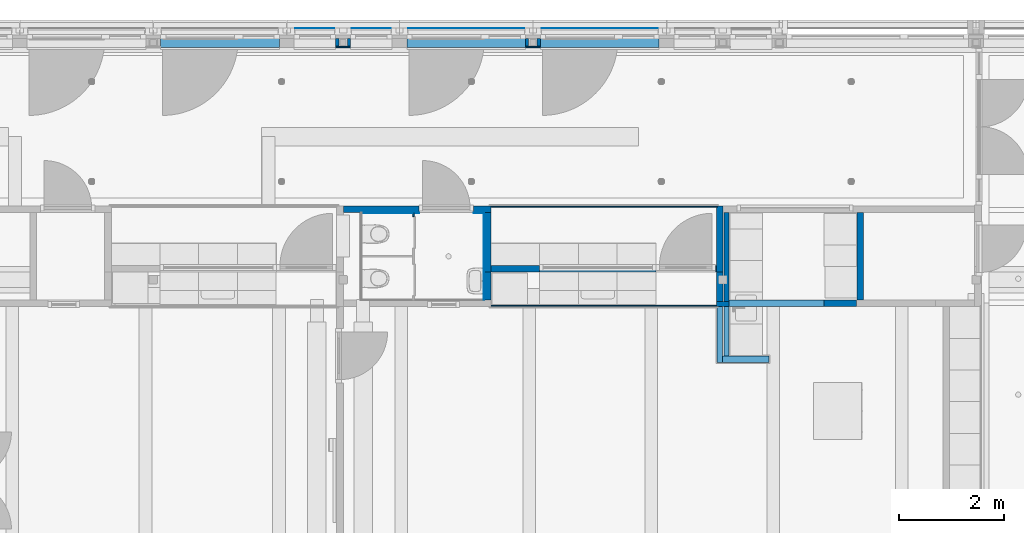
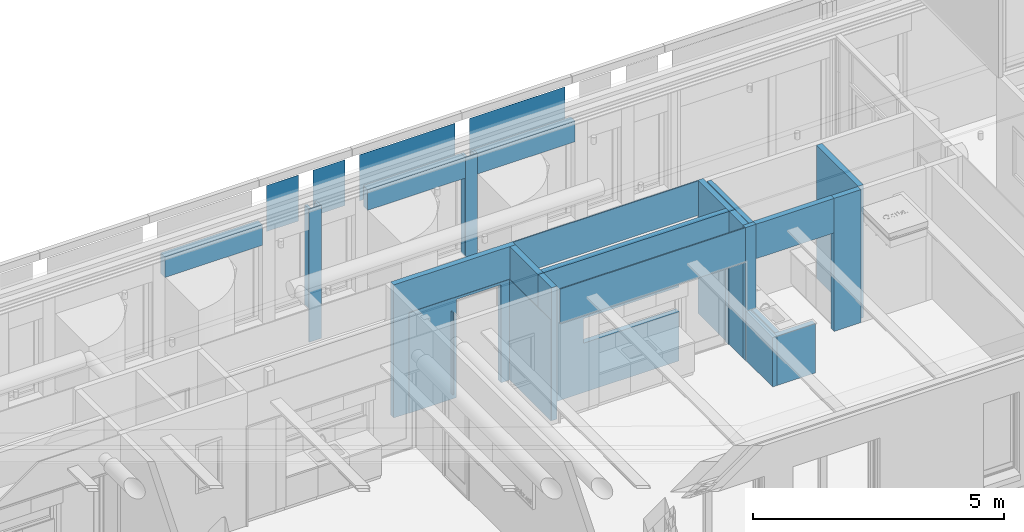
# One storey, part 54 of 128: 32 walls, 4 openings.
"""IFC2X3 building model written with IfcOpenShell, lengths in millimetres."""

from ifc_helpers import new_model, entity, si_unit, converted_unit, derived_unit, direction, frame, frame_2d, origin, place, context, subcontext, project, spatial, rectangle, extrude, material, layer, layer_set, layer_usage, type_object, element, save


model = new_model("IFC2X3")

# Units and contexts
model_context = context("Model", 3, precision=0.01, world=origin(), true_north=direction((6.123031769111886e-17, 1.0)))
body_context = subcontext(model_context, "Body", "Model", "MODEL_VIEW")
ifc_project = project(units=[si_unit("LENGTHUNIT", "METRE", prefix="MILLI"), si_unit("AREAUNIT", "SQUARE_METRE"), si_unit("VOLUMEUNIT", "CUBIC_METRE"), converted_unit("PLANEANGLEUNIT", "DEGREE", entity("IfcRatioMeasure", 0.017453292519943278), si_unit("PLANEANGLEUNIT", "RADIAN"), dimensions=[0, 0, 0, 0, 0, 0, 0]), si_unit("MASSUNIT", "GRAM", prefix="KILO"), derived_unit("MASSDENSITYUNIT", [(si_unit("MASSUNIT", "GRAM", prefix="KILO"), 1), (si_unit("LENGTHUNIT", "METRE"), -3)]), derived_unit("IONCONCENTRATIONUNIT", [(si_unit("MASSUNIT", "GRAM", prefix="KILO"), 1), (si_unit("LENGTHUNIT", "METRE"), -3)]), derived_unit("MOMENTOFINERTIAUNIT", [(si_unit("LENGTHUNIT", "METRE"), 4)]), si_unit("TIMEUNIT", "SECOND"), si_unit("FREQUENCYUNIT", "HERTZ"), si_unit("THERMODYNAMICTEMPERATUREUNIT", "DEGREE_CELSIUS"), derived_unit("THERMALTRANSMITTANCEUNIT", [(si_unit("MASSUNIT", "GRAM", prefix="KILO"), 1), (si_unit("THERMODYNAMICTEMPERATUREUNIT", "KELVIN"), -1), (si_unit("TIMEUNIT", "SECOND"), -3)]), derived_unit("THERMALCONDUCTANCEUNIT", [(si_unit("MASSUNIT", "GRAM", prefix="KILO"), 1), (si_unit("THERMODYNAMICTEMPERATUREUNIT", "KELVIN"), -1), (si_unit("TIMEUNIT", "SECOND"), -3), (si_unit("LENGTHUNIT", "METRE"), 1)]), derived_unit("VOLUMETRICFLOWRATEUNIT", [(si_unit("LENGTHUNIT", "METRE"), 3), (si_unit("TIMEUNIT", "SECOND"), -1)]), derived_unit("MASSFLOWRATEUNIT", [(si_unit("MASSUNIT", "GRAM", prefix="KILO"), 1), (si_unit("TIMEUNIT", "SECOND"), -1)]), derived_unit("ROTATIONALFREQUENCYUNIT", [(si_unit("TIMEUNIT", "SECOND"), -1)]), si_unit("ELECTRICCURRENTUNIT", "AMPERE"), si_unit("ELECTRICVOLTAGEUNIT", "VOLT"), si_unit("POWERUNIT", "WATT"), si_unit("FORCEUNIT", "NEWTON", prefix="KILO"), si_unit("ILLUMINANCEUNIT", "LUX"), si_unit("LUMINOUSFLUXUNIT", "LUMEN"), si_unit("LUMINOUSINTENSITYUNIT", "CANDELA"), derived_unit("USERDEFINED", [(si_unit("MASSUNIT", "GRAM", prefix="KILO"), -1), (si_unit("LENGTHUNIT", "METRE"), -2), (si_unit("TIMEUNIT", "SECOND"), 3), (si_unit("LUMINOUSFLUXUNIT", "LUMEN"), 1)]), derived_unit("USERDEFINED", [(si_unit("MASSUNIT", "GRAM", prefix="KILO"), 1), (si_unit("TIMEUNIT", "SECOND"), -3), (si_unit("LENGTHUNIT", "METRE"), 3), (si_unit("ELECTRICCURRENTUNIT", "AMPERE"), -2)]), derived_unit("SOUNDPOWERUNIT", [(si_unit("MASSUNIT", "GRAM", prefix="KILO"), 1), (si_unit("TIMEUNIT", "SECOND"), -3), (si_unit("LENGTHUNIT", "METRE"), 2)]), derived_unit("SOUNDPRESSUREUNIT", [(si_unit("MASSUNIT", "GRAM", prefix="KILO"), 1), (si_unit("LENGTHUNIT", "METRE"), -1), (si_unit("TIMEUNIT", "SECOND"), -2)]), derived_unit("LINEARVELOCITYUNIT", [(si_unit("LENGTHUNIT", "METRE"), 1), (si_unit("TIMEUNIT", "SECOND"), -1)]), si_unit("PRESSUREUNIT", "PASCAL"), derived_unit("USERDEFINED", [(si_unit("MASSUNIT", "GRAM", prefix="KILO"), 1), (si_unit("LENGTHUNIT", "METRE"), -2), (si_unit("TIMEUNIT", "SECOND"), -2)]), derived_unit("LINEARFORCEUNIT", [(si_unit("MASSUNIT", "GRAM", prefix="KILO"), 1), (si_unit("TIMEUNIT", "SECOND"), -2)]), derived_unit("PLANARFORCEUNIT", [(si_unit("MASSUNIT", "GRAM", prefix="KILO"), 1), (si_unit("LENGTHUNIT", "METRE"), -1), (si_unit("TIMEUNIT", "SECOND"), -2)]), derived_unit("SPECIFICHEATCAPACITYUNIT", [(si_unit("THERMODYNAMICTEMPERATUREUNIT", "KELVIN"), -1), (si_unit("LENGTHUNIT", "METRE"), 2), (si_unit("TIMEUNIT", "SECOND"), -2)]), derived_unit("HEATINGVALUEUNIT", [(si_unit("LENGTHUNIT", "METRE"), 2), (si_unit("TIMEUNIT", "SECOND"), -2)]), derived_unit("VAPORPERMEABILITYUNIT", [(si_unit("LENGTHUNIT", "METRE"), -1), (si_unit("TIMEUNIT", "SECOND"), 1)]), derived_unit("DYNAMICVISCOSITYUNIT", [(si_unit("MASSUNIT", "GRAM", prefix="KILO"), 1), (si_unit("TIMEUNIT", "SECOND"), -1), (si_unit("LENGTHUNIT", "METRE"), -1)]), derived_unit("THERMALEXPANSIONCOEFFICIENTUNIT", [(si_unit("THERMODYNAMICTEMPERATUREUNIT", "KELVIN"), -1)]), derived_unit("MODULUSOFELASTICITYUNIT", [(si_unit("MASSUNIT", "GRAM", prefix="KILO"), 1), (si_unit("LENGTHUNIT", "METRE"), -1), (si_unit("TIMEUNIT", "SECOND"), -2)]), derived_unit("ISOTHERMALMOISTURECAPACITYUNIT", [(si_unit("LENGTHUNIT", "METRE"), 3), (si_unit("MASSUNIT", "GRAM", prefix="KILO"), -1)]), derived_unit("MOISTUREDIFFUSIVITYUNIT", [(si_unit("TIMEUNIT", "SECOND"), -1), (si_unit("LENGTHUNIT", "METRE"), 2)])], contexts=[model_context])

# Site, building, storey
site_placement = place(None, frame((0.0, 300.0, 0.0)))
site = spatial("IfcSite", under=ifc_project, at=site_placement, Name="<Kadastrale nummers>", CompositionType="ELEMENT")
building_placement = place(site_placement, origin())
building = spatial("IfcBuilding", under=site, at=building_placement, CompositionType="ELEMENT")
storey_placement = place(building_placement, frame((0.0, 0.0, 3560.0000331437)))
storey = spatial("IfcBuildingStorey", under=building, at=storey_placement, Name="01 eerste verdieping", CompositionType="ELEMENT", Elevation=3560.0000331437)

# Walls
ifc_material_1 = material(Name="ISR_Gips")
ifc_layer_1 = layer(ifc_material_1, 1.0)
ifc_material_2 = material(Name="ISR_Binnenwand")
ifc_layer_2 = layer(ifc_material_2, 123.0)
ifc_layer_3 = layer(ifc_material_1, 1.0)
ifc_layer_set_1 = layer_set([ifc_layer_1, ifc_layer_2, ifc_layer_3], Name="Basic Wall:22_DAT_binnenwand_125")
ifc_layer_usage_1 = layer_usage(ifc_layer_set_1, "AXIS2", "NEGATIVE", 62.50000000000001)
wall_type_1 = type_object("IfcWallType", Name="Basic Wall:22_DAT_binnenwand_125", PredefinedType="STANDARD", material=ifc_layer_set_1)
wall_1_placement = place(storey_placement, frame((33717.50000000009, 44852.50000000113, 90.00000187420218)))
element("IfcWallStandardCase", 1, at=wall_1_placement, inside=storey, type_object=wall_type_1, material=ifc_layer_usage_1, Name="Basic Wall:22_DAT_binnenwand_125", ObjectType="Basic Wall:22_DAT_binnenwand_125", context=body_context, shape_type="SweptSolid", body=[
    extrude(rectangle(XDim=620.000000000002, YDim=125.00000000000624, at=frame_2d((310.000000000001, 0.0), x_axis=(-1.0, 0.0))), origin(), (0.0, 0.0, 1.0), 3239.9999999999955),
])
wall_2_placement = place(storey_placement, frame((34402.50000000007, 44915.0, 90.00000187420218), z_axis=(0.0, 0.0, 1.0), x_axis=(0.0, 1.0, 0.0)))
element("IfcWallStandardCase", 2, at=wall_2_placement, inside=storey, type_object=wall_type_1, material=ifc_layer_usage_1, Name="Basic Wall:22_DAT_binnenwand_125", ObjectType="Basic Wall:22_DAT_binnenwand_125", context=body_context, shape_type="SweptSolid", body=[
    extrude(rectangle(XDim=1659.999999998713, YDim=124.99999999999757, at=frame_2d((829.9999999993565, 0.0), x_axis=(-1.0, 0.0))), origin(), (0.0, 0.0, 1.0), 3239.9999999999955),
])

# Wall, opening
ifc_layer_usage_2 = layer_usage(ifc_layer_set_1, "AXIS2", "POSITIVE", -62.50000000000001)
wall_3_placement = place(storey_placement, frame((24605.0, 46637.499999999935, 90.00000187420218)))
wall_3 = element("IfcWallStandardCase", 3, at=wall_3_placement, inside=storey, type_object=wall_type_1, material=ifc_layer_usage_2, Name="Basic Wall:22_DAT_binnenwand_125", ObjectType="Basic Wall:22_DAT_binnenwand_125", context=body_context, shape_type="SweptSolid", body=[
    extrude(rectangle(XDim=2799.999999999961, YDim=125.00000000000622, at=frame_2d((1399.9999999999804, -2.7249313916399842e-12), x_axis=(-1.0, 0.0))), origin(), (0.0, 0.0, 1.0), 3240.0000290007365),
])
opening_1_placement = place(wall_3_placement, origin())
element("IfcOpeningElement", 4, at=opening_1_placement, cuts=wall_3, Name="Basic Wall:22_DAT_binnenwand_125", ObjectType="Opening", context=body_context, shape_type="SweptSolid", body=[
    extrude(rectangle(XDim=2390.0000000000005, YDim=1034.0000000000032, at=frame_2d((2.1600499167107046e-12, 0.0), x_axis=(0.0, 1.0))), frame((1953.0013767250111, -214.89999999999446, 1195.0), z_axis=(0.0, 1.0, 0.0), x_axis=(-1.0, 0.0, 0.0)), (0.0, 0.0, 1.0), 429.79999999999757),
])

# Walls
wall_4_placement = place(storey_placement, frame((33717.50000000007, 44852.500000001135, 2490.000024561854), z_axis=(0.0, 0.0, 1.0), x_axis=(-1.0, 0.0, 0.0)))
element("IfcWallStandardCase", 5, at=wall_4_placement, inside=storey, type_object=wall_type_1, material=ifc_layer_usage_1, Name="Basic Wall:22_DAT_binnenwand_125", ObjectType="Basic Wall:22_DAT_binnenwand_125", context=body_context, shape_type="SweptSolid", body=[
    extrude(rectangle(XDim=1797.5000000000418, YDim=125.00000000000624, at=frame_2d((898.7500000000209, -1.7337242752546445e-12), x_axis=(-1.0, 0.0))), origin(), (0.0, 0.0, 1.0), 839.9999773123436),
])
wall_5_placement = place(storey_placement, frame((31790.0, 43792.49999999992, 90.00000187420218)))
element("IfcWallStandardCase", 6, at=wall_5_placement, inside=storey, type_object=wall_type_1, material=ifc_layer_usage_1, Name="Basic Wall:22_DAT_binnenwand_125", ObjectType="Basic Wall:22_DAT_binnenwand_125", context=body_context, shape_type="SweptSolid", body=[
    extrude(rectangle(XDim=887.5000000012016, YDim=125.00000000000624, at=frame_2d((443.7500000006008, 2.462030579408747e-12), x_axis=(-1.0, 0.0))), origin(), (0.0, 0.0, 1.0), 1199.9999999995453),
])
ifc_layer_4 = layer(ifc_material_2, 100.0)
ifc_layer_set_2 = layer_set([ifc_layer_4], Name="Basic Wall:22_DAT_binnenwand_100")
ifc_layer_usage_3 = layer_usage(ifc_layer_set_2, "AXIS2", "NEGATIVE", 50.0)
wall_type_2 = type_object("IfcWallType", Name="Basic Wall:22_DAT_binnenwand_100", PredefinedType="STANDARD", material=ifc_layer_set_2)
wall_6_placement = place(storey_placement, frame((31870.0, 44890.0, 90.00000187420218), z_axis=(0.0, 0.0, 1.0), x_axis=(0.0, 1.0, 0.0)))
element("IfcWallStandardCase", 7, at=wall_6_placement, inside=storey, type_object=wall_type_2, material=ifc_layer_usage_3, Name="Basic Wall:22_DAT_binnenwand_100", ObjectType="Basic Wall:22_DAT_binnenwand_100", context=body_context, shape_type="SweptSolid", body=[
    extrude(rectangle(XDim=1684.999999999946, YDim=100.00000000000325, at=frame_2d((842.499999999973, 0.0), x_axis=(-1.0, 0.0))), origin(), (0.0, 0.0, 1.0), 3240.0000290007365),
])
wall_7_placement = place(storey_placement, frame((31920.0, 44840.0, 90.00000187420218), z_axis=(0.0, 0.0, 1.0), x_axis=(-1.0, 0.0, 0.0)))
element("IfcWallStandardCase", 8, at=wall_7_placement, inside=storey, type_object=wall_type_2, material=ifc_layer_usage_3, Name="Basic Wall:22_DAT_binnenwand_100", ObjectType="Basic Wall:22_DAT_binnenwand_100", context=body_context, shape_type="SweptSolid", body=[
    extrude(rectangle(XDim=240.0000000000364, YDim=99.99999999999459, at=frame_2d((120.0000000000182, 0.0), x_axis=(-1.0, 0.0))), origin(), (0.0, 0.0, 1.0), 3240.0000290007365),
])
ifc_layer_usage_4 = layer_usage(ifc_layer_set_2, "AXIS2", "POSITIVE", -50.0)
wall_8_placement = place(storey_placement, frame((31870.0, 43855.0, 90.00000187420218), z_axis=(0.0, 0.0, 1.0), x_axis=(0.0, 1.0, 0.0)))
element("IfcWallStandardCase", 9, at=wall_8_placement, inside=storey, type_object=wall_type_2, material=ifc_layer_usage_4, Name="Basic Wall:22_DAT_binnenwand_100", ObjectType="Basic Wall:22_DAT_binnenwand_100", context=body_context, shape_type="SweptSolid", body=[
    extrude(rectangle(XDim=934.999999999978, YDim=100.00000000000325, at=frame_2d((467.499999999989, -6.004086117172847e-13), x_axis=(-1.0, 0.0))), origin(), (0.0, 0.0, 1.0), 1199.9999999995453),
])
wall_9_placement = place(storey_placement, frame((31740.0, 43730.0, 90.00000187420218), z_axis=(0.0, 0.0, 1.0), x_axis=(0.0, 1.0, 0.0)))
element("IfcWallStandardCase", 10, at=wall_9_placement, inside=storey, type_object=wall_type_2, material=ifc_layer_usage_4, Name="Basic Wall:22_DAT_binnenwand_100", ObjectType="Basic Wall:22_DAT_binnenwand_100", context=body_context, shape_type="SweptSolid", body=[
    extrude(rectangle(XDim=1059.9999999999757, YDim=100.00000000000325, at=frame_2d((529.9999999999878, -9.698908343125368e-13), x_axis=(-1.0, 0.0))), origin(), (0.0, 0.0, 1.0), 1199.9999999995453),
])
ifc_layer_5 = layer(ifc_material_2, 113.0)
ifc_material_3 = material(Name="ISR_HPL Kleur hout")
ifc_layer_6 = layer(ifc_material_3, 12.0)
ifc_layer_set_3 = layer_set([ifc_layer_5, ifc_layer_6], Name="Basic Wall:22_DAT_binnenwand_125 HPL")
ifc_layer_usage_5 = layer_usage(ifc_layer_set_3, "AXIS2", "POSITIVE", -62.49999999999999)
wall_type_3 = type_object("IfcWallType", Name="Basic Wall:22_DAT_binnenwand_125 HPL", PredefinedType="STANDARD", material=ifc_layer_set_3)
wall_10_placement = place(storey_placement, frame((31742.500000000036, 44890.0, 90.00000187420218), z_axis=(0.0, 0.0, 1.0), x_axis=(0.0, 1.0, 0.0)))
element("IfcWallStandardCase", 11, at=wall_10_placement, inside=storey, type_object=wall_type_3, material=ifc_layer_usage_5, Name="Basic Wall:22_DAT_binnenwand_125 HPL", ObjectType="Basic Wall:22_DAT_binnenwand_125 HPL", context=body_context, shape_type="SweptSolid", body=[
    extrude(rectangle(XDim=560.0000000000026, YDim=124.99999999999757, at=frame_2d((280.0000000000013, 0.0), x_axis=(-1.0, 0.0))), origin(), (0.0, 0.0, 1.0), 3240.0000290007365),
])
ifc_layer_usage_6 = layer_usage(ifc_layer_set_3, "AXIS2", "NEGATIVE", 62.49999999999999)
wall_11_placement = place(storey_placement, frame((27342.500000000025, 44915.0, 90.00000187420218), z_axis=(0.0, 0.0, 1.0), x_axis=(0.0, 1.0, 0.0)))
element("IfcWallStandardCase", 12, at=wall_11_placement, inside=storey, type_object=wall_type_3, material=ifc_layer_usage_6, Name="Basic Wall:22_DAT_binnenwand_125 HPL", ObjectType="Basic Wall:22_DAT_binnenwand_125 HPL", context=body_context, shape_type="SweptSolid", body=[
    extrude(rectangle(XDim=534.9999999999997, YDim=124.99999999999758, at=frame_2d((267.49999999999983, 1.5205614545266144e-12), x_axis=(-1.0, 0.0))), origin(), (0.0, 0.0, 1.0), 3240.0000290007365),
])
wall_12_placement = place(storey_placement, frame((27342.500000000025, 45450.0, 90.00000187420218), z_axis=(0.0, 0.0, 1.0), x_axis=(0.0, 1.0, 0.0)))
element("IfcWallStandardCase", 13, at=wall_12_placement, inside=storey, type_object=wall_type_3, material=ifc_layer_usage_6, Name="Basic Wall:22_DAT_binnenwand_125 HPL", ObjectType="Basic Wall:22_DAT_binnenwand_125 HPL", context=body_context, shape_type="SweptSolid", body=[
    extrude(rectangle(XDim=1124.9999999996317, YDim=124.99999999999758, at=frame_2d((562.4999999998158, -1.1404210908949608e-12), x_axis=(-1.0, 0.0))), origin(), (0.0, 0.0, 1.0), 3240.0000290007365),
])
wall_13_placement = place(storey_placement, frame((31742.500000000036, 45450.0, 90.00000187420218), z_axis=(0.0, 0.0, 1.0), x_axis=(0.0, 1.0, 0.0)))
element("IfcWallStandardCase", 14, at=wall_13_placement, inside=storey, type_object=wall_type_3, material=ifc_layer_usage_5, Name="Basic Wall:22_DAT_binnenwand_125 HPL", ObjectType="Basic Wall:22_DAT_binnenwand_125 HPL", context=body_context, shape_type="SweptSolid", body=[
    extrude(rectangle(XDim=1249.999999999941, YDim=124.99999999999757, at=frame_2d((624.9999999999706, 0.0), x_axis=(-1.0, 0.0))), origin(), (0.0, 0.0, 1.0), 3240.0000290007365),
])

# Wall, openings
ifc_layer_7 = layer(ifc_material_3, 12.0)
ifc_layer_8 = layer(ifc_material_2, 101.0)
ifc_layer_9 = layer(ifc_material_3, 12.0)
ifc_layer_set_4 = layer_set([ifc_layer_7, ifc_layer_8, ifc_layer_9], Name="Basic Wall:22_DAT_binnenwand_125 HPL dubbel")
ifc_layer_usage_7 = layer_usage(ifc_layer_set_4, "AXIS2", "POSITIVE", -62.50000000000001)
wall_type_4 = type_object("IfcWallType", Name="Basic Wall:22_DAT_binnenwand_125 HPL dubbel", PredefinedType="STANDARD", material=ifc_layer_set_4)
wall_14_placement = place(storey_placement, frame((27405.0, 45512.5000000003, 90.00000187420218)))
wall_14 = element("IfcWallStandardCase", 15, at=wall_14_placement, inside=storey, type_object=wall_type_4, material=ifc_layer_usage_7, Name="Basic Wall:22_DAT_binnenwand_125 HPL dubbel", ObjectType="Basic Wall:22_DAT_binnenwand_125 HPL dubbel", context=body_context, shape_type="SweptSolid", body=[
    extrude(rectangle(XDim=4275.000000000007, YDim=125.00000000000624, at=frame_2d((2137.5000000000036, 2.9487523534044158e-12), x_axis=(-1.0, 0.0))), origin(), (0.0, 0.0, 1.0), 3239.9999999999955),
])
opening_2_placement = place(wall_14_placement, origin())
element("IfcOpeningElement", 16, at=opening_2_placement, cuts=wall_14, Name="Basic Wall:22_DAT_binnenwand_125 HPL dubbel", ObjectType="Opening", context=body_context, shape_type="SweptSolid", body=[
    extrude(rectangle(XDim=2390.0000000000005, YDim=1133.9999999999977, at=frame_2d((0.0, 2.1600499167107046e-12), x_axis=(1.0, 0.0))), frame((3693.0, -214.89999999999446, 1195.0), z_axis=(0.0, 1.0, 0.0), x_axis=(0.0, 0.0, 1.0)), (0.0, 0.0, 1.0), 429.79999999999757),
])
opening_3_placement = place(wall_14_placement, origin())
element("IfcOpeningElement", 17, at=opening_3_placement, cuts=wall_14, Name="Basic Wall:22_DAT_binnenwand_125 HPL dubbel", ObjectType="Opening", context=body_context, shape_type="SweptSolid", body=[
    extrude(rectangle(XDim=600.0000000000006, YDim=2205.0000000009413, at=frame_2d((-2.8421709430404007e-13, 2.1600499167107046e-12), x_axis=(1.0, 0.0))), frame((2023.50000000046, -214.8999999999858, 1500.0), z_axis=(0.0, 1.0, 0.0), x_axis=(0.0, 0.0, 1.0)), (0.0, 0.0, 1.0), 429.79999999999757),
])

# Walls
ifc_layer_10 = layer(ifc_material_1, 1.0)
ifc_layer_11 = layer(ifc_material_2, 23.0)
ifc_layer_12 = layer(ifc_material_1, 1.0)
ifc_layer_set_5 = layer_set([ifc_layer_10, ifc_layer_11, ifc_layer_12], Name="Basic Wall:22_DAT_binnenwand_25")
ifc_layer_usage_8 = layer_usage(ifc_layer_set_5, "AXIS2", "NEGATIVE", 12.499999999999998)
wall_type_5 = type_object("IfcWallType", Name="Basic Wall:22_DAT_binnenwand_25", PredefinedType="STANDARD", material=ifc_layer_set_5)
wall_15_placement = place(storey_placement, frame((27405.0, 46687.49999999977, 2490.000024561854)))
element("IfcWallStandardCase", 18, at=wall_15_placement, inside=storey, type_object=wall_type_5, material=ifc_layer_usage_8, Name="Basic Wall:22_DAT_binnenwand_25", ObjectType="Basic Wall:22_DAT_binnenwand_25", context=body_context, shape_type="SweptSolid", body=[
    extrude(rectangle(XDim=4286.999999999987, YDim=24.999999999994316, at=frame_2d((2143.4999999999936, 1.1546319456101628e-14), x_axis=(-1.0, 0.0))), origin(), (0.0, 0.0, 1.0), 839.9999773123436),
])
ifc_layer_usage_9 = layer_usage(ifc_layer_set_5, "AXIS2", "POSITIVE", -12.499999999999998)
wall_16_placement = place(storey_placement, frame((27405.0, 44802.5, 2490.000024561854)))
element("IfcWallStandardCase", 19, at=wall_16_placement, inside=storey, type_object=wall_type_5, material=ifc_layer_usage_9, Name="Basic Wall:22_DAT_binnenwand_25", ObjectType="Basic Wall:22_DAT_binnenwand_25", context=body_context, shape_type="SweptSolid", body=[
    extrude(rectangle(XDim=4274.99999999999, YDim=24.999999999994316, at=frame_2d((2137.499999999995, 6.306066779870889e-14), x_axis=(-1.0, 0.0))), origin(), (0.0, 0.0, 1.0), 839.9999773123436),
])
for number, where, z_axis, x_axis, name in (
    (20, (28340.0, 49712.49999999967, 90.00000187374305), (0.0, 0.0, 1.0), (-1.0, 0.0, 0.0), "Basic Wall:22_DAT_binnenwand_25"),
    (21, (24740.0, 49712.49999999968, 90.00000187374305), (0.0, 0.0, 1.0), (-1.0, 0.0, 0.0), "Basic Wall:22_DAT_binnenwand_25"),
):
    element("IfcWallStandardCase", number, at=place(storey_placement, frame(where, z_axis=z_axis, x_axis=x_axis)), inside=storey, type_object=wall_type_5, material=ifc_layer_usage_9, Name=name, ObjectType="Basic Wall:22_DAT_binnenwand_25", context=body_context, shape_type="SweptSolid", body=[
        extrude(rectangle(XDim=279.99999999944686, YDim=24.999999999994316, at=frame_2d((139.99999999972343, 0.0), x_axis=(-1.0, 0.0))), origin(), (0.0, 0.0, 1.0), 3240.000000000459),
    ])
ifc_material_4 = material(Name="ISR_Kunststof_grijs")
ifc_layer_13 = layer(ifc_material_4, 25.0)
ifc_layer_set_6 = layer_set([ifc_layer_13], Name="Basic Wall:43_DAT_sanitairewand")
ifc_layer_usage_10 = layer_usage(ifc_layer_set_6, "AXIS2", "POSITIVE", -12.500000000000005)
wall_type_6 = type_object("IfcWallType", Name="Basic Wall:43_DAT_sanitairewand", PredefinedType="STANDARD", material=ifc_layer_set_6)
wall_17_placement = place(storey_placement, frame((25932.49999999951, 46575.0, 240.00000187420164), z_axis=(0.0, 0.0, 1.0), x_axis=(0.0, -1.0, 0.0)))
element("IfcWallStandardCase", 22, at=wall_17_placement, inside=storey, type_object=wall_type_6, material=ifc_layer_usage_10, Name="Basic Wall:43_DAT_sanitairewand", ObjectType="Basic Wall:43_DAT_sanitairewand", context=body_context, shape_type="SweptSolid", body=[
    extrude(rectangle(XDim=79.99999999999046, YDim=25.000000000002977, at=frame_2d((39.99999999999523, 3.8458125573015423e-13), x_axis=(-1.0, 0.0))), origin(), (0.0, 0.0, 1.0), 2000.0000000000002),
])
ifc_material_5 = material(Name="STAAL_RAL 7006")
ifc_layer_14 = layer(ifc_material_5, 2.0)
ifc_layer_set_7 = layer_set([ifc_layer_14], Name="Basic Wall:21_DAT_zetwerk_2")
ifc_layer_usage_11 = layer_usage(ifc_layer_set_7, "AXIS2", "NEGATIVE", 1.000000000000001)
wall_type_7 = type_object("IfcWallType", Name="Basic Wall:21_DAT_zetwerk_2", PredefinedType="STANDARD", material=ifc_layer_set_7)
for number, where, name in (
    (23, (28368.0, 50071.0, 2829.9999668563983), "Basic Wall:21_DAT_zetwerk_2"),
    (24, (25838.0, 50071.0, 2829.9999668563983), "Basic Wall:21_DAT_zetwerk_2"),
):
    element("IfcWallStandardCase", number, at=place(storey_placement, frame(where)), inside=storey, type_object=wall_type_7, material=ifc_layer_usage_11, Name=name, ObjectType="Basic Wall:21_DAT_zetwerk_2", context=body_context, shape_type="SweptSolid", body=[
        extrude(rectangle(XDim=2194.0000000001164, YDim=1.9999999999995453, at=frame_2d((1097.0000000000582, 1.4378498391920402e-12), x_axis=(-1.0, 0.0))), origin(), (0.0, 0.0, 1.0), 1120.0000000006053),
    ])
for number, where, name in (
    (25, (24768.0, 50071.0, 2829.9999668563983), "Basic Wall:21_DAT_zetwerk_2"),
    (26, (23698.0, 50071.0, 2829.9999668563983), "Basic Wall:21_DAT_zetwerk_2"),
):
    element("IfcWallStandardCase", number, at=place(storey_placement, frame(where)), inside=storey, type_object=wall_type_7, material=ifc_layer_usage_11, Name=name, ObjectType="Basic Wall:21_DAT_zetwerk_2", context=body_context, shape_type="SweptSolid", body=[
        extrude(rectangle(XDim=733.9999999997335, YDim=1.9999999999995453, at=frame_2d((366.99999999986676, 0.0), x_axis=(-1.0, 0.0))), origin(), (0.0, 0.0, 1.0), 1120.0000000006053),
    ])
ifc_layer_15 = layer(ifc_material_1, 12.5)
ifc_layer_16 = layer(ifc_material_1, 12.5)
ifc_material_6 = material(Name="ISR_Dak_isolatie(198)")
ifc_layer_17 = layer(ifc_material_6, 140.0)
ifc_material_7 = material(Name="ISR_Multiplex")
ifc_layer_18 = layer(ifc_material_7, 10.0)
ifc_layer_set_8 = layer_set([ifc_layer_15, ifc_layer_16, ifc_layer_17, ifc_layer_18], Name="Basic Wall:21_DAT_Hekwerk 175")
ifc_layer_usage_12 = layer_usage(ifc_layer_set_8, "AXIS2", "POSITIVE", -87.5)
wall_type_8 = type_object("IfcWallType", Name="Basic Wall:21_DAT_Hekwerk 175", PredefinedType="STANDARD", material=ifc_layer_set_8)
for number, where, name in (
    (27, (28340.0, 49787.50000000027, 2830.0), "Basic Wall:21_DAT_Hekwerk 175"),
    (28, (25810.0, 49787.500000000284, 2830.0), "Basic Wall:21_DAT_Hekwerk 175"),
    (29, (21140.0, 49787.5000000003, 2830.0), "Basic Wall:21_DAT_Hekwerk 175"),
):
    element("IfcWallStandardCase", number, at=place(storey_placement, frame(where)), inside=storey, type_object=wall_type_8, material=ifc_layer_usage_12, Name=name, ObjectType="Basic Wall:21_DAT_Hekwerk 175", context=body_context, shape_type="SweptSolid", body=[
        extrude(rectangle(XDim=2249.999999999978, YDim=174.99999999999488, at=frame_2d((1124.999999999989, 1.5702994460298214e-12), x_axis=(-1.0, 0.0))), origin(), (0.0, 0.0, 1.0), 500.00003087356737),
    ])

# Wall, opening
ifc_material_8 = material(Name="ISR_Tegels_grijs_150x150")
ifc_layer_19 = layer(ifc_material_8, 10.0)
ifc_layer_set_9 = layer_set([ifc_layer_19], Name="Basic Wall:43_DAT_Wandtegelwerk")
ifc_layer_usage_13 = layer_usage(ifc_layer_set_9, "AXIS2", "NEGATIVE", 5.0)
wall_type_9 = type_object("IfcWallType", Name="Basic Wall:43_DAT_Wandtegelwerk", PredefinedType="STANDARD", material=ifc_layer_set_9)
wall_18_placement = place(storey_placement, frame((24955.0, 46570.0, 90.00000187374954)))
wall_18 = element("IfcWallStandardCase", 30, at=wall_18_placement, inside=storey, type_object=wall_type_9, material=ifc_layer_usage_13, Name="Basic Wall:43_DAT_Wandtegelwerk", ObjectType="Basic Wall:43_DAT_Wandtegelwerk", context=body_context, shape_type="SweptSolid", body=[
    extrude(rectangle(XDim=2314.999999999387, YDim=9.999999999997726, at=frame_2d((1157.4999999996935, 0.0), x_axis=(1.0, 0.0))), origin(), (0.0, 0.0, 1.0), 2450.000022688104),
])
opening_4_placement = place(wall_18_placement, origin())
element("IfcOpeningElement", 31, at=opening_4_placement, cuts=wall_18, Name="Basic Wall:43_DAT_Wandtegelwerk", ObjectType="Opening", context=body_context, shape_type="SweptSolid", body=[
    extrude(rectangle(XDim=2390.0000000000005, YDim=1034.0000000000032, at=frame_2d((2.1600499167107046e-12, 0.0), x_axis=(0.0, 1.0))), frame((1603.0013767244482, -157.39999999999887, 1195.0), z_axis=(0.0, 1.0, 0.0), x_axis=(-1.0, 0.0, 0.0)), (0.0, 0.0, 1.0), 314.79999999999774),
])

# Walls
wall_19_placement = place(storey_placement, frame((27275.0, 46575.0, 90.00000187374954), z_axis=(0.0, 0.0, 1.0), x_axis=(0.0, -1.0, 0.0)))
element("IfcWallStandardCase", 32, at=wall_19_placement, inside=storey, type_object=wall_type_9, material=ifc_layer_usage_13, Name="Basic Wall:43_DAT_Wandtegelwerk", ObjectType="Basic Wall:43_DAT_Wandtegelwerk", context=body_context, shape_type="SweptSolid", body=[
    extrude(rectangle(XDim=1649.9999999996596, YDim=9.999999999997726, at=frame_2d((824.9999999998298, 0.0), x_axis=(-1.0, 0.0))), origin(), (0.0, 0.0, 1.0), 2450.000022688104),
])
ifc_layer_20 = layer(ifc_material_6, 140.0)
ifc_layer_21 = layer(ifc_material_7, 10.0)
ifc_layer_set_10 = layer_set([ifc_layer_20, ifc_layer_21], Name="Basic Wall:21_DAT_Hekwerk 150")
ifc_layer_usage_14 = layer_usage(ifc_layer_set_10, "AXIS2", "NEGATIVE", 75.0)
wall_type_10 = type_object("IfcWallType", Name="Basic Wall:21_DAT_Hekwerk 150", PredefinedType="STANDARD", material=ifc_layer_set_10)
wall_20_placement = place(storey_placement, frame((28120.0, 49800.0, 900.0000018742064), z_axis=(0.0, 0.0, 1.0), x_axis=(-1.0, 0.0, 0.0)))
element("IfcWallStandardCase", 33, at=wall_20_placement, inside=storey, type_object=wall_type_10, material=ifc_layer_usage_14, Name="Basic Wall:21_DAT_Hekwerk 150", ObjectType="Basic Wall:21_DAT_Hekwerk 150", context=body_context, shape_type="SweptSolid", body=[
    extrude(rectangle(XDim=60.000000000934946, YDim=150.00000000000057, at=frame_2d((30.000000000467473, 5.968558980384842e-13), x_axis=(-1.0, 0.0))), origin(), (0.0, 0.0, 1.0), 2429.9999999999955),
])
ifc_layer_usage_15 = layer_usage(ifc_layer_set_10, "AXIS2", "POSITIVE", -75.0)
wall_21_placement = place(storey_placement, frame((28280.0, 49800.0, 900.0000018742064)))
element("IfcWallStandardCase", 34, at=wall_21_placement, inside=storey, type_object=wall_type_10, material=ifc_layer_usage_15, Name="Basic Wall:21_DAT_Hekwerk 150", ObjectType="Basic Wall:21_DAT_Hekwerk 150", context=body_context, shape_type="SweptSolid", body=[
    extrude(rectangle(XDim=59.99999999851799, YDim=150.00000000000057, at=frame_2d((29.999999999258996, 9.592326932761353e-13), x_axis=(-1.0, 0.0))), origin(), (0.0, 0.0, 1.0), 2429.9999999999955),
])
wall_22_placement = place(storey_placement, frame((24520.0, 49800.0, 900.0000018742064), z_axis=(0.0, 0.0, 1.0), x_axis=(-1.0, 0.0, 0.0)))
element("IfcWallStandardCase", 35, at=wall_22_placement, inside=storey, type_object=wall_type_10, material=ifc_layer_usage_14, Name="Basic Wall:21_DAT_Hekwerk 150", ObjectType="Basic Wall:21_DAT_Hekwerk 150", context=body_context, shape_type="SweptSolid", body=[
    extrude(rectangle(XDim=60.000000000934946, YDim=150.00000000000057, at=frame_2d((30.000000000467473, 5.968558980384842e-13), x_axis=(-1.0, 0.0))), origin(), (0.0, 0.0, 1.0), 2429.9999999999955),
])
wall_23_placement = place(storey_placement, frame((24680.0, 49800.0, 900.0000018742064)))
element("IfcWallStandardCase", 36, at=wall_23_placement, inside=storey, type_object=wall_type_10, material=ifc_layer_usage_15, Name="Basic Wall:21_DAT_Hekwerk 150", ObjectType="Basic Wall:21_DAT_Hekwerk 150", context=body_context, shape_type="SweptSolid", body=[
    extrude(rectangle(XDim=59.99999999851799, YDim=150.00000000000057, at=frame_2d((29.999999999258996, 9.592326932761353e-13), x_axis=(-1.0, 0.0))), origin(), (0.0, 0.0, 1.0), 2429.9999999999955),
])

save(model, "model.ifc")
